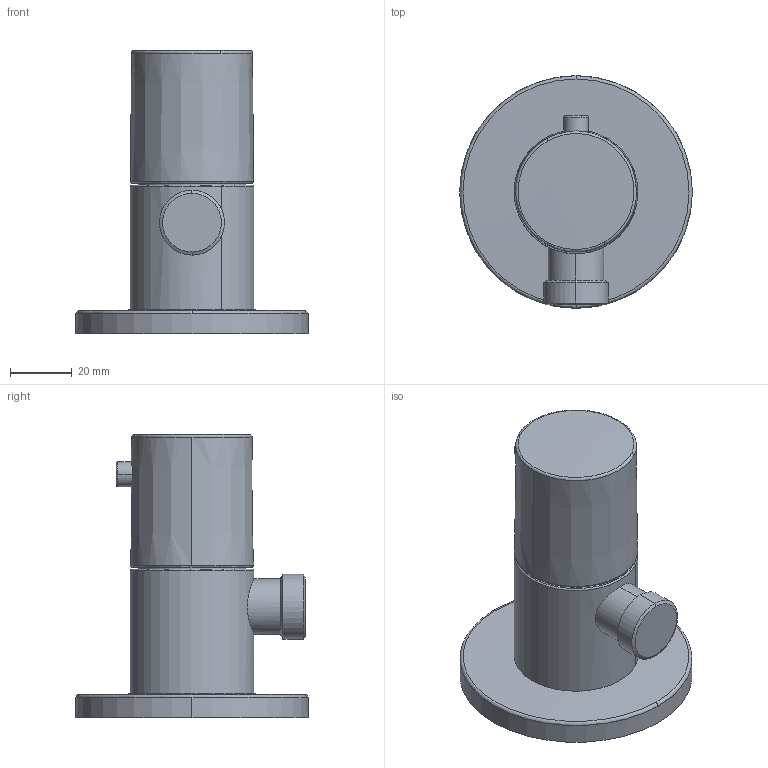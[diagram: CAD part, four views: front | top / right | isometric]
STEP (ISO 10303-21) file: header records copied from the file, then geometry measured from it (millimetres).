
FILE_DESCRIPTION (( 'STEP AP203' ), '1' );
FILE_NAME ('290051(2026).STEP', '2025-10-20T10:12:13', ( '' ), ( '' ), 'SwSTEP 2.0', 'SolidWorks 2024', '' );
FILE_SCHEMA (( 'CONFIG_CONTROL_DESIGN' ));
Length unit declared in the file: millimetre
Products named in the file (1): 290051(2026)
Bounding box: 75.14 x 75.14 x 91.53 mm (x, y, z)
Volume: 142284 mm3; surface area: 24060.4 mm2
Topology: 1 solids, 2 shells, 43 faces, 92 edges, 57 vertices
Faces by surface type: bspline 12, cylinder 12, cone 11, plane 6, torus 2
Entity records: 1693 total; most frequent: CARTESIAN_POINT 716, DIRECTION 198, ORIENTED_EDGE 180, EDGE_CURVE 90, AXIS2_PLACEMENT_3D 88, VERTEX_POINT 57, CIRCLE 56, EDGE_LOOP 49
